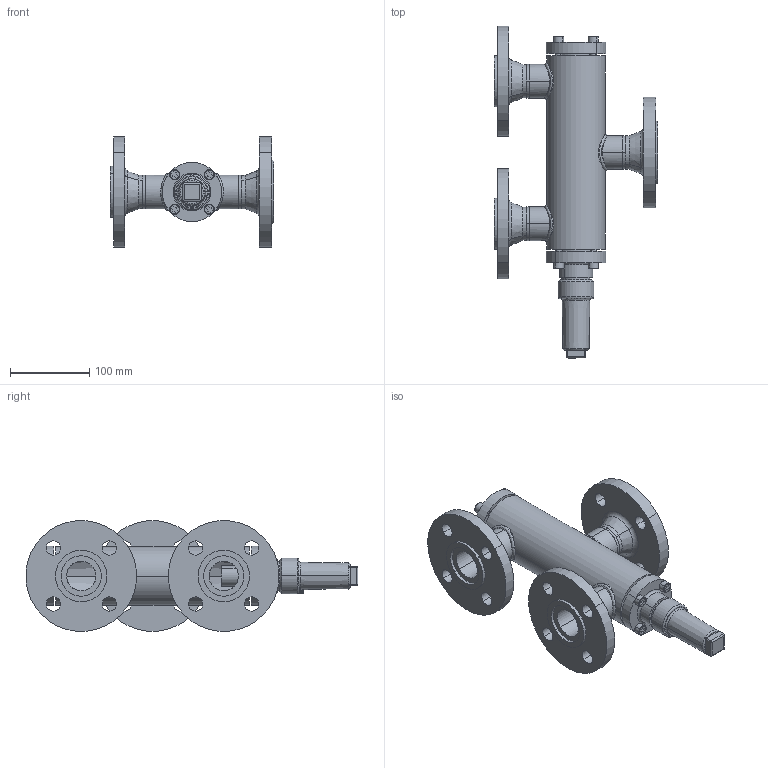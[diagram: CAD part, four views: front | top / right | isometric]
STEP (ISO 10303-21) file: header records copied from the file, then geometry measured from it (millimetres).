
FILE_DESCRIPTION (( 'STEP AP214' ), '1' );
FILE_NAME ('WVR24020D13-DN032_DIN-FL-N-F_PS40.STEP', '2010-09-08T08:49:26', ( 'Eckhard Grams' ), ( 'AWP Kälte Klima Armaturen GmbH' ), 'SwSTEP 2.0', 'SolidWorks 2002296', '' );
FILE_SCHEMA (( 'AUTOMOTIVE_DESIGN' ));
Length unit declared in the file: millimetre
Products named in the file (17): WVR24020D13-DN032_DIN-FL-N-F_PS40; AVR26300E13_Deck+Schr-DN25-32_Standard; Deckel26300E13-DN25-32_Standard; Kappe 16402-13_DN10-32 (M36x2)_Standard; Geh,kpl24020E13-DN32_DIN-FL-N-F_PS40_Standard; Flansch-DIN2635-Nut_PS40_DIN-Flansch-DN032_PS40-Nut; Flansch-DIN2635-Feder_PS40_DIN-Flansch-DN032_PS40-Feder; Geh,kpl24000E13_DN32_R1_PS40_Standard; Gehäuse24000E13-DN32_R1_PS40_Standard; Rohrstutzen-24000E13-DN32_R1_Standard; Schw-24000E13-DN32_Standard; beadC4020-13-3_Standard; beadC4020-13-1_Standard; beadC4020-13-2_Standard; WVB-R23000E13_Deck+Schr-DN25-32_Standard; Deckel23000E13-DN25-32_Standard; Zylinderschraube-DIN912_M 8x  25
Assembly tree (28 placements, depth 4):
  WVR24020D13-DN032_DIN-FL-N-F_PS40
    AVR26300E13_Deck+Schr-DN25-32_Standard
      Zylinderschraube-DIN912_M 8x  25  x4
      Deckel26300E13-DN25-32_Standard
    Geh,kpl24020E13-DN32_DIN-FL-N-F_PS40_Standard
      Flansch-DIN2635-Feder_PS40_DIN-Flansch-DN032_PS40-Feder  x2
      Flansch-DIN2635-Nut_PS40_DIN-Flansch-DN032_PS40-Nut
      Geh,kpl24000E13_DN32_R1_PS40_Standard
        Rohrstutzen-24000E13-DN32_R1_Standard  x3
        Schw-24000E13-DN32_Standard  x3
        Gehäuse24000E13-DN32_R1_PS40_Standard
      beadC4020-13-3_Standard
      beadC4020-13-2_Standard
      beadC4020-13-1_Standard
    WVB-R23000E13_Deck+Schr-DN25-32_Standard
      Zylinderschraube-DIN912_M 8x  25  x4
      Deckel23000E13-DN25-32_Standard
    Kappe 16402-13_DN10-32 (M36x2)_Standard
Bounding box: 206 x 419.23 x 139.47 mm (x, y, z)
Volume: 1596702.1 mm3; surface area: 328213.3 mm2
Topology: 24 solids, 24 shells, 505 faces, 1161 edges, 729 vertices
Faces by surface type: cylinder 218, plane 145, cone 65, torus 43, bspline 34
Entity records: 27664 total; most frequent: CARTESIAN_POINT 19391, DIRECTION 1575, ORIENTED_EDGE 1478, EDGE_CURVE 739, AXIS2_PLACEMENT_3D 671, VERTEX_POINT 463, EDGE_LOOP 382, CIRCLE 350
